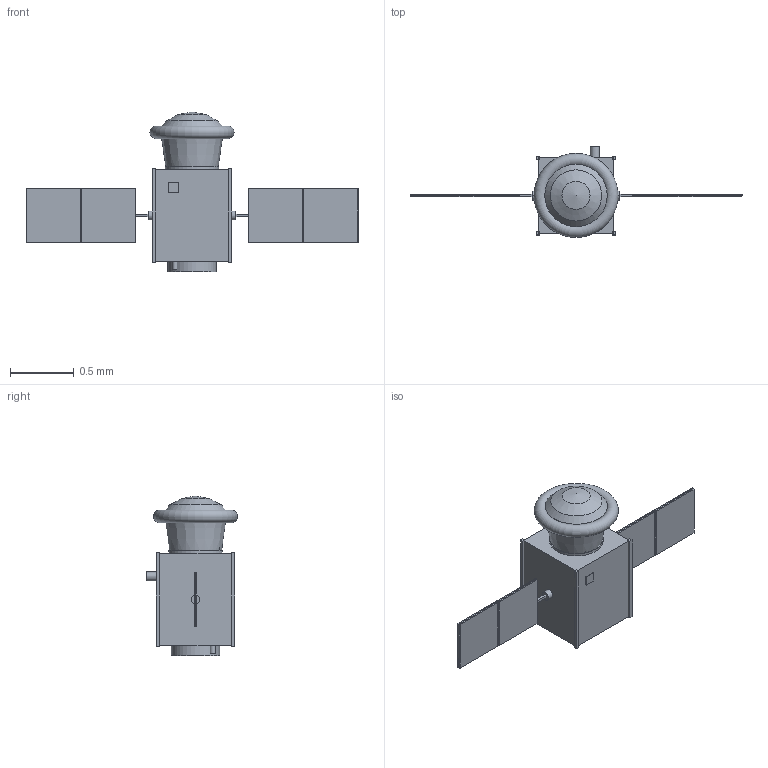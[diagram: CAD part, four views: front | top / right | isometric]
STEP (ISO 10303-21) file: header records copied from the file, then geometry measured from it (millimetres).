
FILE_DESCRIPTION(('Open CASCADE Model'),'2;1');
FILE_NAME('Open CASCADE Shape Model','2026-10-04T13:15:44',('Author'),( 'Open CASCADE'),'Open CASCADE STEP processor 7.9','Open CASCADE 7.9' ,'Unknown');
FILE_SCHEMA(('AUTOMOTIVE_DESIGN { 1 0 10303 214 1 1 1 1 }'));
Length unit declared in the file: millimetre
Products named in the file (49): SP-IMM; capsule_backshell; nose; heat_shield_packed; sample_drawer; sample_cassette_1; sample_cassette_2; sample_cassette_3; sample_cassette_4; optical_window; capsule_avionics_and_hold_battery; parachute_canister; recovery_beacon; separation_interface; service_module_structure; corner_rail_-X-Y; corner_rail_-X+Y; corner_rail_+X-Y; corner_rail_+X+Y; radiator_+Y_face; experiment_instruments_microscope_pumps_reservoirs; propellant_tank_LMP-103S; battery; on-board_computer_and_radios; reaction_wheel_1; reaction_wheel_2; reaction_wheel_3; magnetorquer_1; magnetorquer_2; star_tracker; S-band_antenna; 1_g_centrifuge_housing; 1_g_rotor_and_ring_cassette_8_cm_radius; counter-rotor; 22_N_thruster_1; 22_N_thruster_2; launch_separation_ring; array_drive_-X; yoke_-X; solar_panel_-X1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
Assembly tree (48 placements, depth 2):
  SP-IMM
    capsule_backshell
    nose
    heat_shield_packed
    sample_drawer
    sample_cassette_1
    sample_cassette_2
    sample_cassette_3
    sample_cassette_4
    optical_window
    capsule_avionics_and_hold_battery
    parachute_canister
    recovery_beacon
    separation_interface
    service_module_structure
    corner_rail_-X-Y
    corner_rail_-X+Y
    corner_rail_+X-Y
    corner_rail_+X+Y
    radiator_+Y_face
    experiment_instruments_microscope_pumps_reservoirs
    propellant_tank_LMP-103S
    battery
    on-board_computer_and_radios
    reaction_wheel_1
    reaction_wheel_2
    reaction_wheel_3
    magnetorquer_1
    magnetorquer_2
    star_tracker
    S-band_antenna
    1_g_centrifuge_housing
    1_g_rotor_and_ring_cassette_8_cm_radius
    counter-rotor
    22_N_thruster_1
    22_N_thruster_2
    launch_separation_ring
    array_drive_-X
    yoke_-X
    solar_panel_-X1
    panel_frame_-X1
    solar_panel_-X2
    panel_frame_-X2
    array_drive_+X
    yoke_+X
    solar_panel_+X1
    panel_frame_+X1
    solar_panel_+X2
    panel_frame_+X2
Bounding box: 2.61 x 0.72 x 1.26 mm (x, y, z)
Volume: 0.4 mm3; surface area: 10.5 mm2
Topology: 48 solids, 48 shells, 224 faces, 395 edges, 262 vertices
Faces by surface type: plane 199, cylinder 19, cone 4, torus 1, sphere 1
Full cylindrical faces by diameter (mm): 0.024 x2, 0.04 x1, 0.045 x2, 0.07 x3, 0.09 x3, 0.14 x1, 0.17 x2, 0.22 x1, 0.341 x1, 0.381 x1, 0.423 x1, 0.491 x1
Entity records: 11562 total; most frequent: DIRECTION 1763, CARTESIAN_POINT 1707, LINE 1090, VECTOR 1090, ORIENTED_EDGE 782, PCURVE 782, DEFINITIONAL_REPRESENTATION 782, EDGE_CURVE 391
